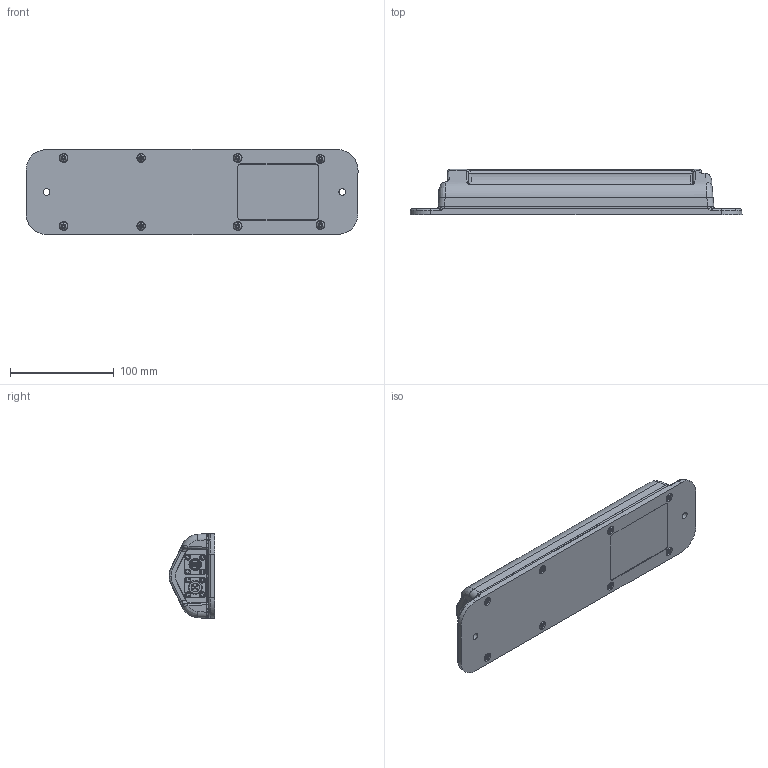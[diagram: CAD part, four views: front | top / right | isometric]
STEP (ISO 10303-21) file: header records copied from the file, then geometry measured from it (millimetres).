
FILE_DESCRIPTION (( 'STEP AP214' ), '1' );
FILE_NAME ('AX064000.STEP', '2022-03-17T12:31:36', ( '' ), ( '' ), 'SwSTEP 2.0', 'SolidWorks 2019', '' );
FILE_SCHEMA (( 'AUTOMOTIVE_DESIGN' ));
Length unit declared in the file: millimetre
Products named in the file (12): Axi002A_V2_kansi; 09-3443-00-05; Kuusiomutteri_DIN_439_B_M12 DIN 439 B; AX064000; Axi002A_V2_3; gorenippa; DIN_912_3x10_M3x10 DIN 912; Axi001A_V1_stp; Axi002A_V2_2; 09 3458 00 05; Lukitusmutteri_DIN_985_M3 DIN 985; T10 3_5x16_05_16212425 M3 X 10MM
Assembly tree (32 placements, depth 3):
  AX064000
    Axi002A_V2_kansi
      Axi002A_V2_3
      Axi002A_V2_2
    gorenippa
    09 3458 00 05
    09-3443-00-05
    DIN_912_3x10_M3x10 DIN 912  x8
    Lukitusmutteri_DIN_985_M3 DIN 985  x8
    Kuusiomutteri_DIN_439_B_M12 DIN 439 B
    Axi001A_V1_stp
    T10 3_5x16_05_16212425 M3 X 10MM  x8
Bounding box: 320 x 44.09 x 82 mm (x, y, z)
Volume: 290795.6 mm3; surface area: 219904.1 mm2
Topology: 30 solids, 35 shells, 2086 faces, 5210 edges, 3277 vertices
Faces by surface type: plane 951, cylinder 436, bspline 411, cone 277, torus 11
Full cylindrical faces by diameter (mm): 0.77 x5, 1 x5, 1.05 x5, 1.185 x1, 1.2 x4, 2.459 x8, 2.82 x8, 3 x16, 3.2 x8, 3.5 x8, 3.712 x1, 5.5 x8, 6.75 x8, 8 x2, 8.3 x1, 8.5 x8, 10.4 x1, 10.5 x1, 12 x10, 13.5 x1
Entity records: 77061 total; most frequent: CARTESIAN_POINT 40332, ORIENTED_EDGE 8068, DIRECTION 6285, EDGE_CURVE 4038, VERTEX_POINT 2642, AXIS2_PLACEMENT_3D 2142, EDGE_LOOP 2034, LINE 2001
